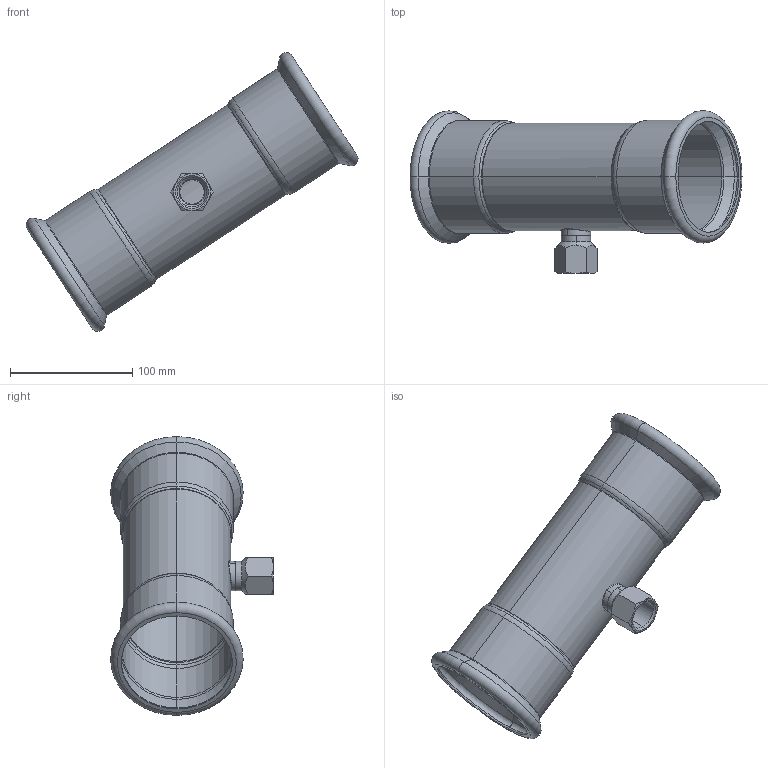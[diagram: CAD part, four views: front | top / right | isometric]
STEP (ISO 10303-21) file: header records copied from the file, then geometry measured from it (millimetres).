
FILE_DESCRIPTION (( 'STEP AP203' ), '1' );
FILE_NAME ('GDA5258.STEP', '2019-01-14T01:33:27', ( '' ), ( '' ), 'SwSTEP 2.0', 'SolidWorks 2015', '' );
FILE_SCHEMA (( 'CONFIG_CONTROL_DESIGN' ));
Length unit declared in the file: millimetre
Products named in the file (3): T(R)-¢ñ-88.9¡Á22''; GDA5258; ITC-I-03-22℅?
Assembly tree (2 placements, depth 2):
  GDA5258
    ITC-I-03-22℅?
    T(R)-¢ñ-88.9¡Á22''
Bounding box: 271.92 x 133.24 x 228.26 mm (x, y, z)
Volume: 126535.4 mm3; surface area: 163745.7 mm2
Topology: 2 solids, 2 shells, 103 faces, 218 edges, 122 vertices
Faces by surface type: torus 32, cone 28, cylinder 26, plane 13, bspline 4
Entity records: 4114 total; most frequent: CARTESIAN_POINT 1581, DIRECTION 526, ORIENTED_EDGE 436, AXIS2_PLACEMENT_3D 236, EDGE_CURVE 218, CIRCLE 132, VERTEX_POINT 122, EDGE_LOOP 112
